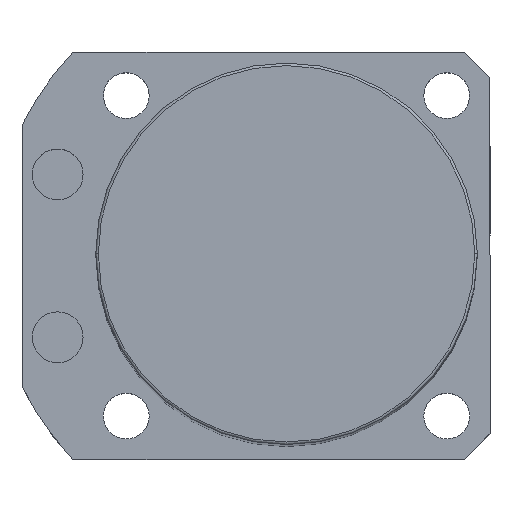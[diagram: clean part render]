
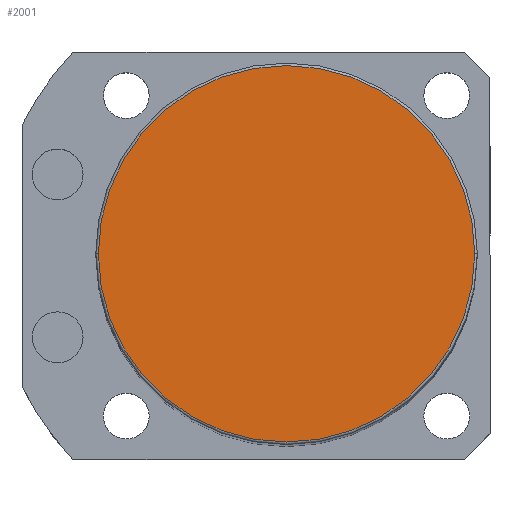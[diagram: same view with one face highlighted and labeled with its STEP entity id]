
A CAD part, top view. The second image highlights one B-rep face of the part: STEP entity #2001.
In plain terms, the highlighted planar face has unit normal (0, 0, 1).
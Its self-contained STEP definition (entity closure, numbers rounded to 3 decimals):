
#212 = DIRECTION ( 'NONE',  ( 0., 0., 1. ) ) ;
#233 = CARTESIAN_POINT ( 'NONE',  ( 0., 0., 245.5 ) ) ;
#510 = PLANE ( 'NONE',  #1919 ) ;
#678 = CARTESIAN_POINT ( 'NONE',  ( 37., 0., 245.5 ) ) ;
#910 = DIRECTION ( 'NONE',  ( 1., 0., 0. ) ) ;
#967 = ORIENTED_EDGE ( 'NONE', *, *, #1321, .T. ) ;
#1047 = VERTEX_POINT ( 'NONE', #678 ) ;
#1185 = ORIENTED_EDGE ( 'NONE', *, *, #2148, .T. ) ;
#1227 = CARTESIAN_POINT ( 'NONE',  ( 0., 0., 245.5 ) ) ;
#1321 = EDGE_CURVE ( 'NONE', #2059, #1047, #1782, .T. ) ;
#1327 = CARTESIAN_POINT ( 'NONE',  ( 0., 0., 245.5 ) ) ;
#1607 = AXIS2_PLACEMENT_3D ( 'NONE', #233, #212, #2255 ) ;
#1733 = DIRECTION ( 'NONE',  ( 0., 0., 1. ) ) ;
#1782 = CIRCLE ( 'NONE', #1607, 37. ) ;
#1919 = AXIS2_PLACEMENT_3D ( 'NONE', #1327, #1733, #910 ) ;
#2001 = ADVANCED_FACE ( 'NONE', ( #2506 ), #510, .T. ) ;
#2045 = DIRECTION ( 'NONE',  ( 0., 0., 1. ) ) ;
#2059 = VERTEX_POINT ( 'NONE', #2363 ) ;
#2148 = EDGE_CURVE ( 'NONE', #1047, #2059, #2373, .T. ) ;
#2184 = AXIS2_PLACEMENT_3D ( 'NONE', #1227, #2045, #2608 ) ;
#2255 = DIRECTION ( 'NONE',  ( 1., 0., 0. ) ) ;
#2363 = CARTESIAN_POINT ( 'NONE',  ( -37., 0., 245.5 ) ) ;
#2373 = CIRCLE ( 'NONE', #2184, 37. ) ;
#2454 = EDGE_LOOP ( 'NONE', ( #1185, #967 ) ) ;
#2506 = FACE_OUTER_BOUND ( 'NONE', #2454, .T. ) ;
#2608 = DIRECTION ( 'NONE',  ( 1., 0., 0. ) ) ;
